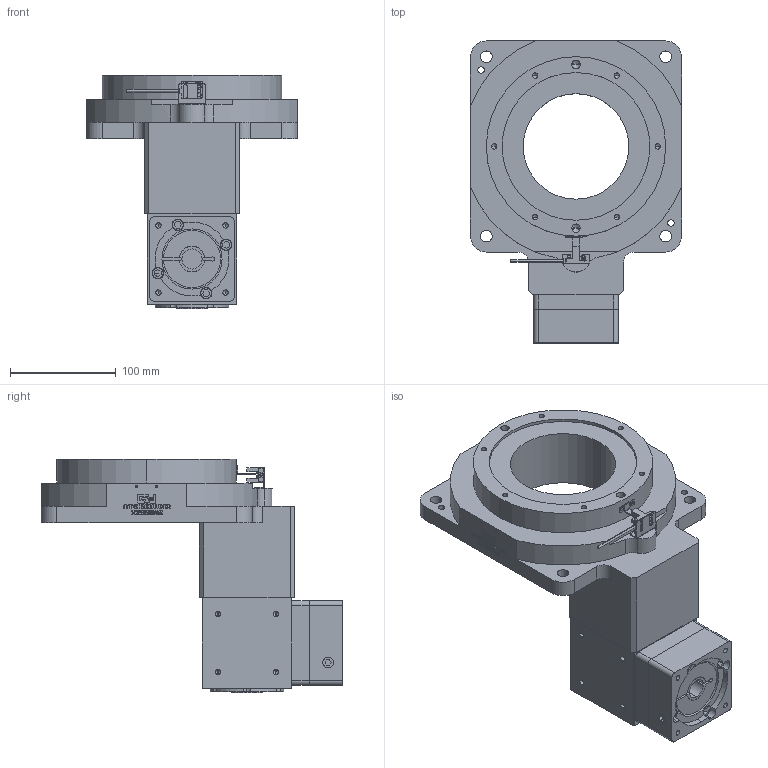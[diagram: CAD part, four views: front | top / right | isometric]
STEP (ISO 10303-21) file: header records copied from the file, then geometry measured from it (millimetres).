
FILE_DESCRIPTION (( 'STEP AP214' ), '1' );
FILE_NAME ('GT200-C-10-Z-19-70-90-M6-2.STEP', '2024-07-08T02:51:24', ( '' ), ( '' ), 'SwSTEP 2.0', 'SolidWorks 2021', '' );
FILE_SCHEMA (( 'AUTOMOTIVE_DESIGN' ));
Length unit declared in the file: millimetre
Products named in the file (1): GT200-C-10-Z-19-70-90-M6-2
Bounding box: 200 x 286 x 221 mm (x, y, z)
Volume: 2839631.2 mm3; surface area: 273832.9 mm2
Topology: 6 solids, 8 shells, 1200 faces, 3177 edges, 2060 vertices
Faces by surface type: plane 758, cylinder 303, bspline 69, cone 66, torus 4
Entity records: 45625 total; most frequent: CARTESIAN_POINT 8230, ORIENTED_EDGE 6238, DIRECTION 5830, EDGE_CURVE 3119, VECTOR 2272, LINE 2272, VERTEX_POINT 2060, AXIS2_PLACEMENT_3D 1779
